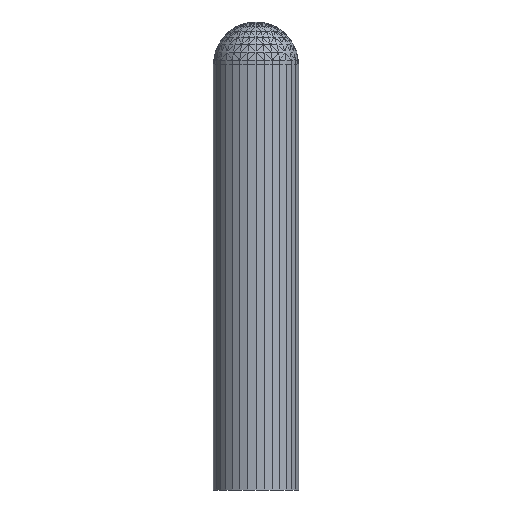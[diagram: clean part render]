
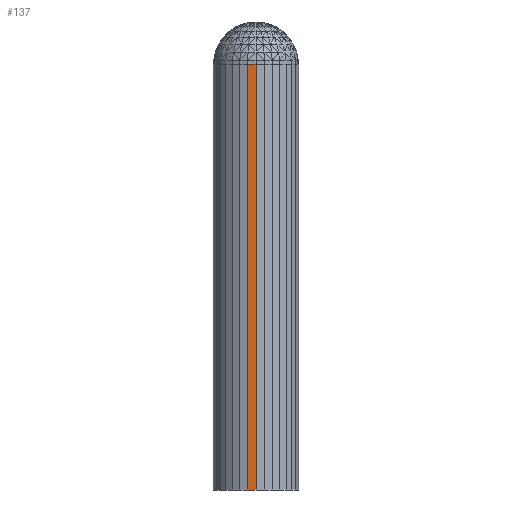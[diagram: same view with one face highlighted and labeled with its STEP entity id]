
A CAD part, left-side view. The second image highlights one B-rep face of the part: STEP entity #137.
In plain terms, the highlighted planar face has unit normal (-0.995, 0.098, 0).
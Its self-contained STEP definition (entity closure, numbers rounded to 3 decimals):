
#72 = PLANE('',#73);
#73 = AXIS2_PLACEMENT_3D('',#74,#75,#76);
#74 = CARTESIAN_POINT('',(2.968,0.289,30.));
#75 = DIRECTION('',(0.,0.,1.));
#76 = DIRECTION('',(1.,0.,-0.));
#126 = PLANE('',#127);
#127 = AXIS2_PLACEMENT_3D('',#128,#129,#130);
#128 = CARTESIAN_POINT('',(2.957,0.,0.));
#129 = DIRECTION('',(-0.,-0.,-1.));
#130 = DIRECTION('',(-1.,0.,0.));
#137 = ADVANCED_FACE('',(#138),#152,.T.);
#138 = FACE_BOUND('',#139,.T.);
#139 = EDGE_LOOP('',(#140,#175,#198,#226));
#140 = ORIENTED_EDGE('',*,*,#141,.T.);
#141 = EDGE_CURVE('',#142,#144,#146,.T.);
#142 = VERTEX_POINT('',#143);
#143 = CARTESIAN_POINT('',(-2.942,0.585,30.));
#144 = VERTEX_POINT('',#145);
#145 = CARTESIAN_POINT('',(-2.942,0.585,0.));
#146 = SURFACE_CURVE('',#147,(#151,#163),.PCURVE_S1.);
#147 = LINE('',#148,#149);
#148 = CARTESIAN_POINT('',(-2.942,0.585,30.));
#149 = VECTOR('',#150,1.);
#150 = DIRECTION('',(0.,0.,-1.));
#151 = PCURVE('',#152,#157);
#152 = PLANE('',#153);
#153 = AXIS2_PLACEMENT_3D('',#154,#155,#156);
#154 = CARTESIAN_POINT('',(-2.957,0.438,
    14.854));
#155 = DIRECTION('',(-0.995,0.098,-0.));
#156 = DIRECTION('',(-0.098,-0.995,0.));
#157 = DEFINITIONAL_REPRESENTATION('',(#158),#162);
#158 = LINE('',#159,#160);
#159 = CARTESIAN_POINT('',(-0.148,15.146));
#160 = VECTOR('',#161,1.);
#161 = DIRECTION('',(-0.,-1.));
#162 = ( GEOMETRIC_REPRESENTATION_CONTEXT(2) 
PARAMETRIC_REPRESENTATION_CONTEXT() REPRESENTATION_CONTEXT('2D SPACE',''
  ) );
#163 = PCURVE('',#164,#169);
#164 = PLANE('',#165);
#165 = AXIS2_PLACEMENT_3D('',#166,#167,#168);
#166 = CARTESIAN_POINT('',(-2.815,1.006,
    14.854));
#167 = DIRECTION('',(-0.957,0.29,-0.));
#168 = DIRECTION('',(-0.29,-0.957,0.));
#169 = DEFINITIONAL_REPRESENTATION('',(#170),#174);
#170 = LINE('',#171,#172);
#171 = CARTESIAN_POINT('',(0.44,15.146));
#172 = VECTOR('',#173,1.);
#173 = DIRECTION('',(-0.,-1.));
#174 = ( GEOMETRIC_REPRESENTATION_CONTEXT(2) 
PARAMETRIC_REPRESENTATION_CONTEXT() REPRESENTATION_CONTEXT('2D SPACE',''
  ) );
#175 = ORIENTED_EDGE('',*,*,#176,.F.);
#176 = EDGE_CURVE('',#177,#144,#179,.T.);
#177 = VERTEX_POINT('',#178);
#178 = CARTESIAN_POINT('',(-3.,0.,0.));
#179 = SURFACE_CURVE('',#180,(#184,#191),.PCURVE_S1.);
#180 = LINE('',#181,#182);
#181 = CARTESIAN_POINT('',(-3.,0.,0.));
#182 = VECTOR('',#183,1.);
#183 = DIRECTION('',(0.098,0.995,0.));
#184 = PCURVE('',#152,#185);
#185 = DEFINITIONAL_REPRESENTATION('',(#186),#190);
#186 = LINE('',#187,#188);
#187 = CARTESIAN_POINT('',(0.44,-14.854));
#188 = VECTOR('',#189,1.);
#189 = DIRECTION('',(-1.,0.));
#190 = ( GEOMETRIC_REPRESENTATION_CONTEXT(2) 
PARAMETRIC_REPRESENTATION_CONTEXT() REPRESENTATION_CONTEXT('2D SPACE',''
  ) );
#191 = PCURVE('',#126,#192);
#192 = DEFINITIONAL_REPRESENTATION('',(#193),#197);
#193 = LINE('',#194,#195);
#194 = CARTESIAN_POINT('',(5.957,0.));
#195 = VECTOR('',#196,1.);
#196 = DIRECTION('',(-0.098,0.995));
#197 = ( GEOMETRIC_REPRESENTATION_CONTEXT(2) 
PARAMETRIC_REPRESENTATION_CONTEXT() REPRESENTATION_CONTEXT('2D SPACE',''
  ) );
#198 = ORIENTED_EDGE('',*,*,#199,.T.);
#199 = EDGE_CURVE('',#177,#200,#202,.T.);
#200 = VERTEX_POINT('',#201);
#201 = CARTESIAN_POINT('',(-3.,0.,30.));
#202 = SURFACE_CURVE('',#203,(#207,#214),.PCURVE_S1.);
#203 = LINE('',#204,#205);
#204 = CARTESIAN_POINT('',(-3.,0.,0.));
#205 = VECTOR('',#206,1.);
#206 = DIRECTION('',(0.,0.,1.));
#207 = PCURVE('',#152,#208);
#208 = DEFINITIONAL_REPRESENTATION('',(#209),#213);
#209 = LINE('',#210,#211);
#210 = CARTESIAN_POINT('',(0.44,-14.854));
#211 = VECTOR('',#212,1.);
#212 = DIRECTION('',(0.,1.));
#213 = ( GEOMETRIC_REPRESENTATION_CONTEXT(2) 
PARAMETRIC_REPRESENTATION_CONTEXT() REPRESENTATION_CONTEXT('2D SPACE',''
  ) );
#214 = PCURVE('',#215,#220);
#215 = PLANE('',#216);
#216 = AXIS2_PLACEMENT_3D('',#217,#218,#219);
#217 = CARTESIAN_POINT('',(-2.985,-0.148,
    14.854));
#218 = DIRECTION('',(-0.995,-0.098,-0.));
#219 = DIRECTION('',(0.098,-0.995,0.));
#220 = DEFINITIONAL_REPRESENTATION('',(#221),#225);
#221 = LINE('',#222,#223);
#222 = CARTESIAN_POINT('',(-0.148,-14.854));
#223 = VECTOR('',#224,1.);
#224 = DIRECTION('',(0.,1.));
#225 = ( GEOMETRIC_REPRESENTATION_CONTEXT(2) 
PARAMETRIC_REPRESENTATION_CONTEXT() REPRESENTATION_CONTEXT('2D SPACE',''
  ) );
#226 = ORIENTED_EDGE('',*,*,#227,.F.);
#227 = EDGE_CURVE('',#142,#200,#228,.T.);
#228 = SURFACE_CURVE('',#229,(#233,#240),.PCURVE_S1.);
#229 = LINE('',#230,#231);
#230 = CARTESIAN_POINT('',(-2.942,0.585,30.));
#231 = VECTOR('',#232,1.);
#232 = DIRECTION('',(-0.098,-0.995,0.));
#233 = PCURVE('',#152,#234);
#234 = DEFINITIONAL_REPRESENTATION('',(#235),#239);
#235 = LINE('',#236,#237);
#236 = CARTESIAN_POINT('',(-0.148,15.146));
#237 = VECTOR('',#238,1.);
#238 = DIRECTION('',(1.,0.));
#239 = ( GEOMETRIC_REPRESENTATION_CONTEXT(2) 
PARAMETRIC_REPRESENTATION_CONTEXT() REPRESENTATION_CONTEXT('2D SPACE',''
  ) );
#240 = PCURVE('',#72,#241);
#241 = DEFINITIONAL_REPRESENTATION('',(#242),#246);
#242 = LINE('',#243,#244);
#243 = CARTESIAN_POINT('',(-5.91,0.296));
#244 = VECTOR('',#245,1.);
#245 = DIRECTION('',(-0.098,-0.995));
#246 = ( GEOMETRIC_REPRESENTATION_CONTEXT(2) 
PARAMETRIC_REPRESENTATION_CONTEXT() REPRESENTATION_CONTEXT('2D SPACE',''
  ) );
